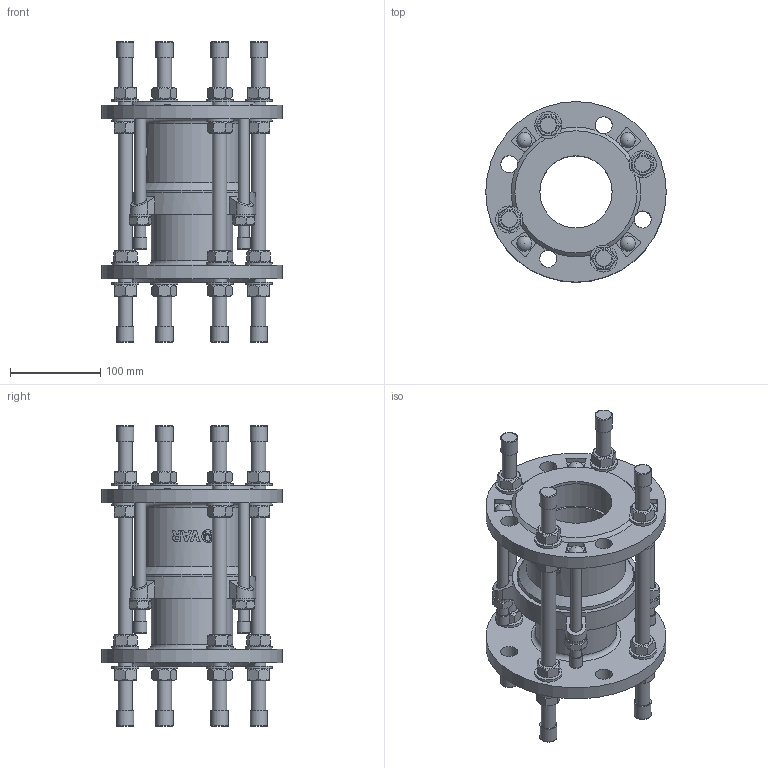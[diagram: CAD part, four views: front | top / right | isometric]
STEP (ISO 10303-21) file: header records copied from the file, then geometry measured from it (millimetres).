
FILE_DESCRIPTION(('STEP AP242'), '1');
FILE_NAME('Ìîíòàæíàÿ âñòàâêà', '', ('UNSPECIFIED'), ('UNSPECIFIED'), 'C3D Converter', 'C3D Toolkit', '');
FILE_SCHEMA(('AP242_MANAGED_MODEL_BASED_3D_ENGINEERING_MIM_LF { 1 0 10303 442 1 1 4 }'));
Length unit declared in the file: millimetre
Products named in the file (13): ШМ.М16.310
Assembly tree (64 placements, depth 2):
  (unnamed)
    (unnamed)
    (unnamed)
    (unnamed)
    (unnamed)  x16
    (unnamed)  x16
    ШМ.М16.310  x4
    (unnamed)  x8
    (unnamed)
    (unnamed)  x4
    (unnamed)  x4
    (unnamed)  x4
    (unnamed)  x4
Bounding box: 200 x 200 x 333.2 mm (x, y, z)
Volume: 1807042.1 mm3; surface area: 531530.1 mm2
Topology: 64 solids, 64 shells, 672 faces, 1482 edges, 944 vertices
Faces by surface type: plane 389, cylinder 155, cone 99, torus 14, extrusion 11, sphere 4
Full cylindrical faces by diameter (mm): 12 x12, 13 x4, 14 x4, 14.057 x1, 14.4 x4, 16 x28, 17 x16, 19 x16, 19.2 x8, 24 x4, 30 x16, 80 x2, 90 x2, 95 x2, 110 x1, 115 x1, 127 x1, 131 x1, 141 x1, 200 x2
Entity records: 15700 total; most frequent: CARTESIAN_POINT 7563, DIRECTION 1288, ORIENTED_EDGE 1124, EDGE_CURVE 562, AXIS2_PLACEMENT_3D 527, VERTEX_POINT 407, EDGE_LOOP 377, FACE_BOUND 271
